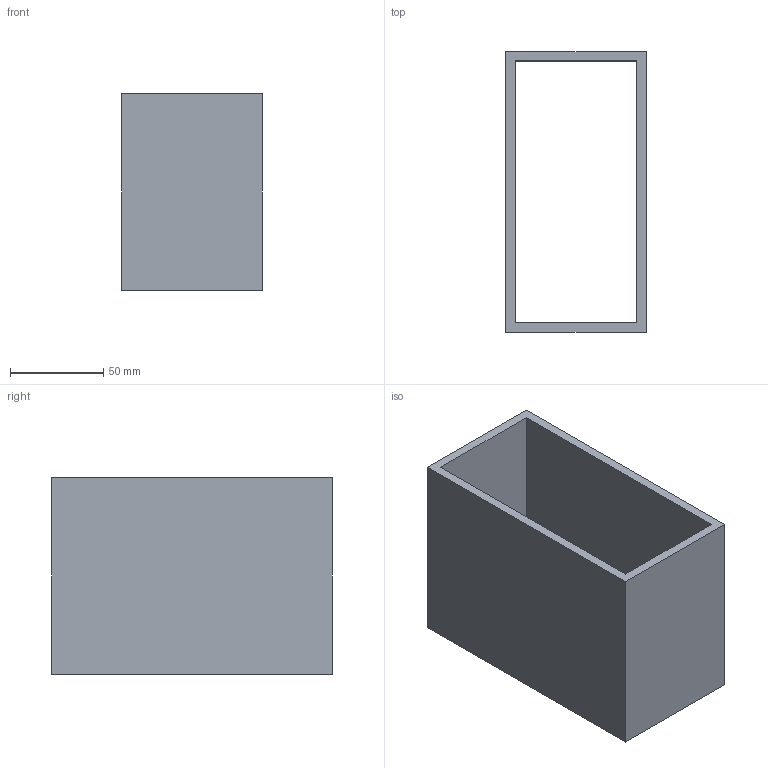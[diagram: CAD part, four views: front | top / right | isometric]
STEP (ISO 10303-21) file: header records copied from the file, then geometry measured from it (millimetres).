
FILE_DESCRIPTION(('Open CASCADE Model'),'2;1');
FILE_NAME('Open CASCADE Shape Model','2026-10-19T10:09:27',('Author'),( 'Open CASCADE'),'Open CASCADE STEP processor 8.0','Open CASCADE 8.0' ,'Unknown');
FILE_SCHEMA(('AUTOMOTIVE_DESIGN { 1 0 10303 214 1 1 1 1 }'));
Length unit declared in the file: millimetre
Products named in the file (1): AC_RHS150x75x5_L105000 170
Bounding box: 75 x 150 x 105 mm (x, y, z)
Volume: 225750 mm3; surface area: 94600 mm2
Topology: 1 solids, 1 shells, 10 faces, 24 edges, 16 vertices
Faces by surface type: plane 10
Entity records: 614 total; most frequent: CARTESIAN_POINT 99, DIRECTION 94, LINE 72, VECTOR 72, ORIENTED_EDGE 48, PCURVE 48, DEFINITIONAL_REPRESENTATION 48, EDGE_CURVE 24
